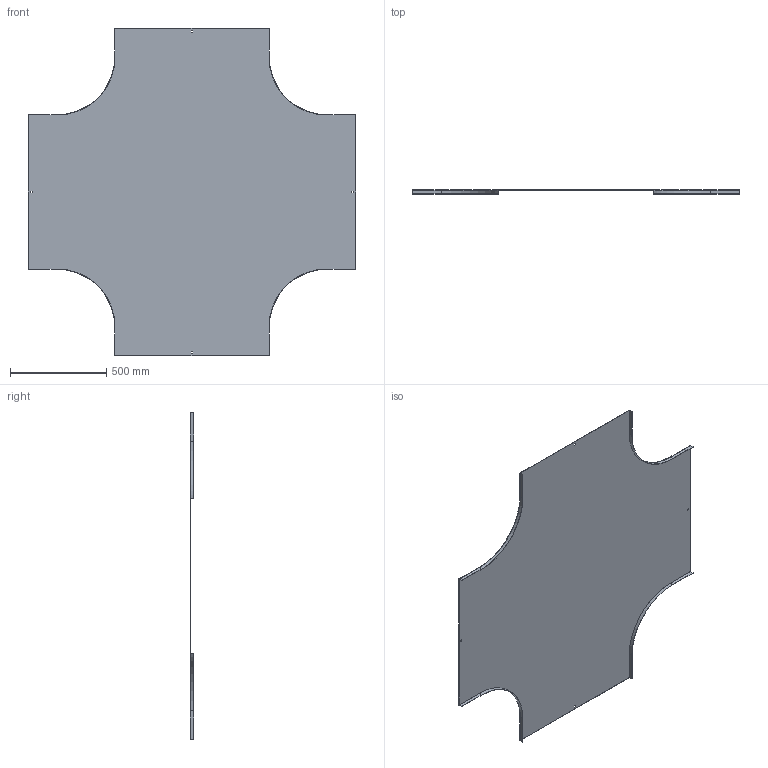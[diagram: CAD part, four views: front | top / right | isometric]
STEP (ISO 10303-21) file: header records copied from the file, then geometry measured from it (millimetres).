
FILE_DESCRIPTION (( 'STEP AP214' ), '1' );
FILE_NAME ('A2_17N3R800.step', '2025-02-21T12:08:28', ( '' ), ( '' ), 'SwSTEP 2.0', 'SolidWorks 2023', '' );
FILE_SCHEMA (( 'AUTOMOTIVE_DESIGN' ));
Length unit declared in the file: millimetre
Products named in the file (1): A2_17N3R800
Bounding box: 1700 x 20 x 1700 mm (x, y, z)
Volume: 3327941.3 mm3; surface area: 4447094.3 mm2
Topology: 1 solids, 1 shells, 50 faces, 144 edges, 96 vertices
Faces by surface type: plane 42, cylinder 8
Entity records: 1663 total; most frequent: CARTESIAN_POINT 291, ORIENTED_EDGE 288, DIRECTION 262, EDGE_CURVE 144, VECTOR 128, LINE 128, VERTEX_POINT 96, AXIS2_PLACEMENT_3D 67
